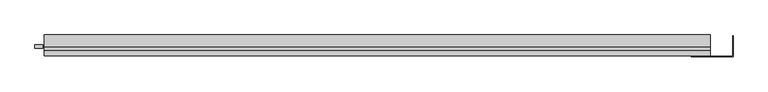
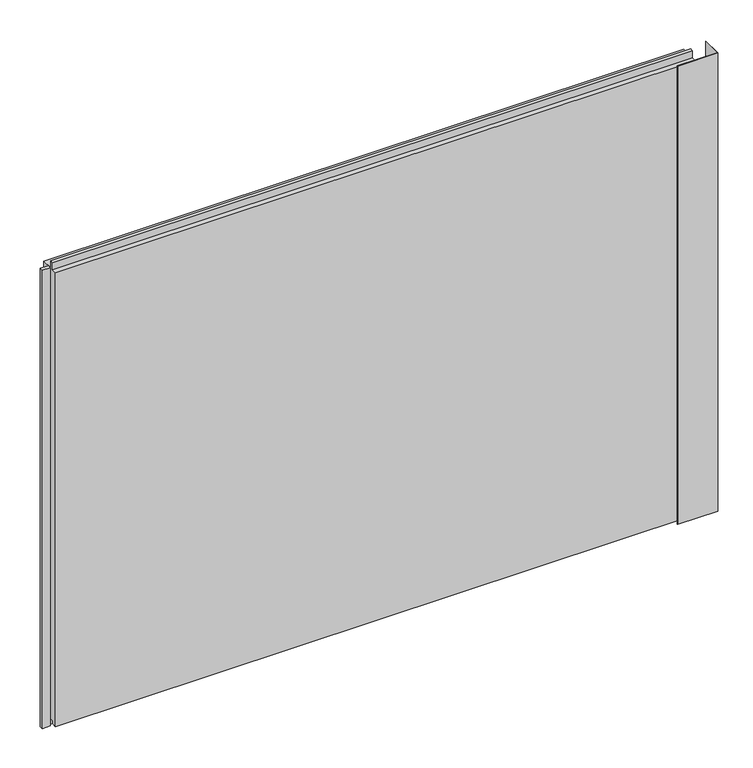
"""IFC4 building model written with IfcOpenShell, lengths in millimetres: plate geometry, Trimo_Qbiss Screen_Normal Panel-HORIZONTAL : HR - FB."""

from ifc_helpers import new_model, si_unit, frame, origin, place, context, project, spatial, polyline, outline, extrude, source, transform, mapped, element, save


def plate_f42e8210(model_context):
    return source(origin(), model_context, "Body", "SweptSolid", [
        extrude(outline(polyline([(702.7, 49.0), (801.0, 49.0), (801.0, 98.3), (801.8, 98.3), (801.8, 48.2), (702.7, 48.2), (702.7, 49.0)])), frame((0.0, 0.0, -1.0), z_axis=(0.0, 0.0, 1.0), x_axis=(1.0, 0.0, 0.0)), (0.0, 0.0, 1.0), 1200.0),
        extrude(outline(polyline([(-840.5, 76.5978162), (-840.5, 67.8978162), (-859.5, 67.8978162), (-859.5, 76.5978162), (-840.5, 76.5978162)])), frame((0.0, 0.0, -1.0), z_axis=(0.0, 0.0, 1.0), x_axis=(1.0, 0.0, 0.0)), (0.0, 0.0, 1.0), 1200.0),
        extrude(outline(polyline([(71.0, 1196.0), (100.0, 1196.0), (100.0, 0.0), (72.0, 0.0), (72.0, 15.5), (62.0, 15.5), (62.0, 7.0), (50.0, 7.0), (50.0, 1196.0), (63.0, 1196.0), (63.0, 1214.5), (71.0, 1214.5), (71.0, 1196.0)])), frame((-837.5, 0.0, 0.0), z_axis=(1.0, 0.0, 0.0), x_axis=(0.0, 1.0, 0.0)), (0.0, 0.0, 1.0), 1585.5),
    ])


if __name__ == "__main__":
    model = new_model("IFC4")
    model_context = context("Model", 3, world=origin())
    ifc_project = project(units=[si_unit("LENGTHUNIT", "METRE", prefix="MILLI")], contexts=[model_context])
    site = spatial("IfcSite", under=ifc_project)
    building = spatial("IfcBuilding", under=site)
    placement = place(None, origin())
    plate_shape = plate_f42e8210(model_context)
    element("IfcPlate", 1, ObjectType="Trimo_Qbiss Screen_Normal Panel-HORIZONTAL : HR - FB", at=placement, inside=building, context=model_context, shape_type="MappedRepresentation", body=[
        mapped(plate_shape, transform((0.0, 0.0, 0.0), x_axis=(1.0, 0.0, 0.0), y_axis=(0.0, 1.0, 0.0), z_axis=(0.0, 0.0, 1.0))),
    ])
    save(model, "model.ifc")
